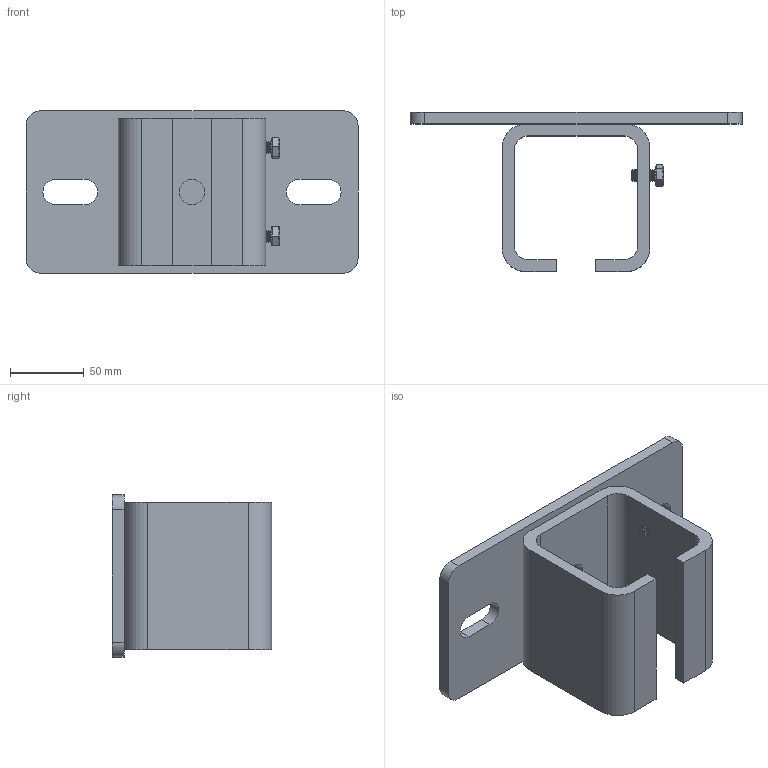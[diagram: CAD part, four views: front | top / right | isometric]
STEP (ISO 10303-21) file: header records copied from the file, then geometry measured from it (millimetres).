
FILE_DESCRIPTION (( 'STEP AP203' ), '1' );
FILE_NAME ('60080-0.STEP', '2024-10-14T11:35:08', ( '' ), ( '' ), 'SwSTEP 2.0', 'SolidWorks 2022', '' );
FILE_SCHEMA (( 'CONFIG_CONTROL_DESIGN' ));
Length unit declared in the file: millimetre
Products named in the file (4): P01_A05_C01 KKKL-2000 PLATE; Tornillo Hexagonal _DIN EN 24014 - M8 x 16 x 16-S; 60080-0; U-2000
Assembly tree (4 placements, depth 2):
  60080-0
    P01_A05_C01 KKKL-2000 PLATE
    U-2000
    Tornillo Hexagonal _DIN EN 24014 - M8 x 16 x 16-S  x2
Bounding box: 225 x 108 x 110 mm (x, y, z)
Volume: 448139.1 mm3; surface area: 126806.7 mm2
Topology: 4 solids, 4 shells, 361 faces, 936 edges, 596 vertices
Faces by surface type: plane 114, cone 112, cylinder 78, bspline 53, torus 4
Entity records: 10948 total; most frequent: CARTESIAN_POINT 4290, ORIENTED_EDGE 1368, DIRECTION 1182, EDGE_CURVE 684, VERTEX_POINT 442, AXIS2_PLACEMENT_3D 402, VECTOR 378, LINE 378
